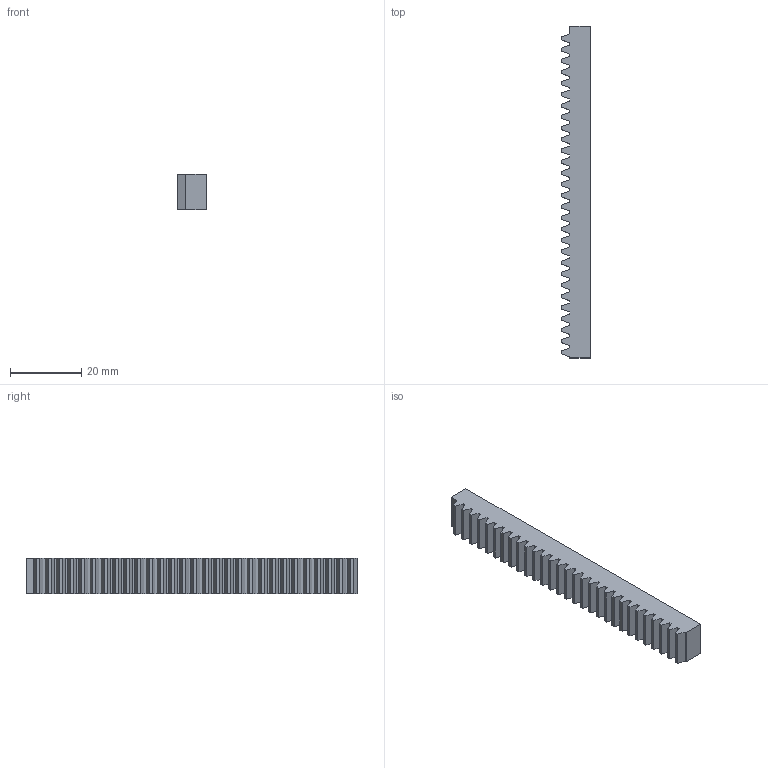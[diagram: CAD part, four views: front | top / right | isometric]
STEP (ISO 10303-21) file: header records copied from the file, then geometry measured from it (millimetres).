
FILE_DESCRIPTION(('Open CASCADE Model'),'2;1');
FILE_NAME('Open CASCADE Shape Model','2026-10-15T20:56:36',('Author'),( 'Open CASCADE'),'Open CASCADE STEP processor 7.9','Open CASCADE 7.9' ,'Unknown');
FILE_SCHEMA(('AUTOMOTIVE_DESIGN { 1 0 10303 214 1 1 1 1 }'));
Length unit declared in the file: millimetre
Products named in the file (1): Open CASCADE STEP translator 7.9 5
Bounding box: 8 x 93 x 10 mm (x, y, z)
Volume: 6392.5 mm3; surface area: 4238 mm2
Topology: 1 solids, 1 shells, 126 faces, 366 edges, 244 vertices
Faces by surface type: plane 124, cylinder 2
Full cylindrical faces by diameter (mm): 2.5 x2
Entity records: 8848 total; most frequent: CARTESIAN_POINT 1481, DIRECTION 1354, LINE 1090, VECTOR 1090, ORIENTED_EDGE 732, PCURVE 732, DEFINITIONAL_REPRESENTATION 732, EDGE_CURVE 366
